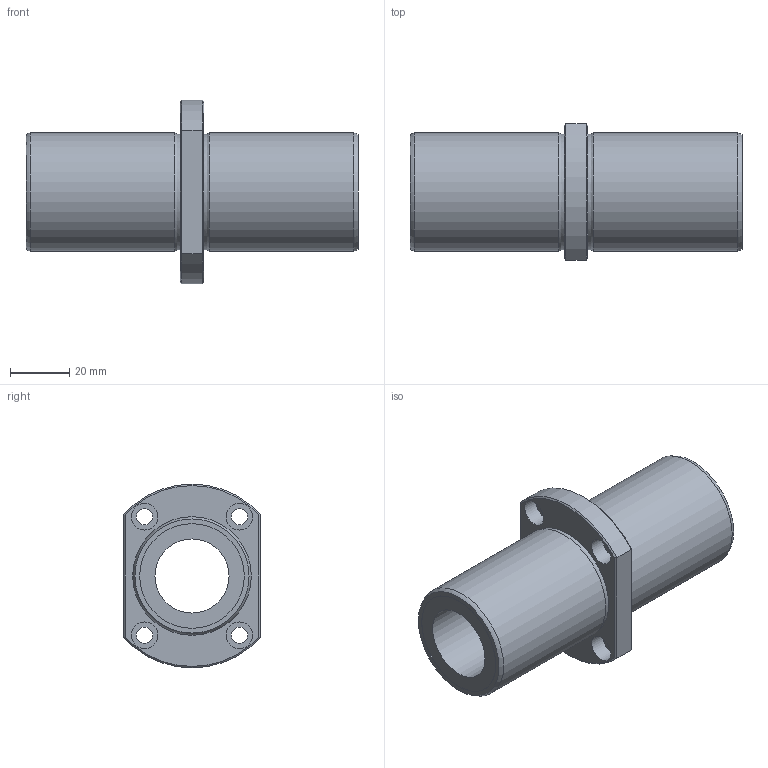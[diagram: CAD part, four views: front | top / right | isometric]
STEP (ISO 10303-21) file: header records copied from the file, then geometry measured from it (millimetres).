
FILE_DESCRIPTION((''),'2;1');
FILE_NAME('D:\製品 (図面)\カタログ用3D\リニアベアリング関連\STEP形式\LFDTC\LFDTC25B.stp','2010-06-04T08:41:36',('Tsuchiya'),(''),'Autodesk Inventor 10','Autodesk Inventor 10','');
FILE_SCHEMA(('AUTOMOTIVE_DESIGN { 1 0 10303 214 1 1 1 1 }'));
Length unit declared in the file: millimetre
Products named in the file (1): LFDTC25B
Bounding box: 112 x 46 x 62 mm (x, y, z)
Volume: 94176.1 mm3; surface area: 27983.2 mm2
Topology: 1 solids, 1 shells, 39 faces, 75 edges, 46 vertices
Faces by surface type: plane 16, cylinder 15, cone 4, torus 2, bspline 2
Full cylindrical faces by diameter (mm): 5.5 x4, 9 x4, 25 x1, 35.3 x2, 40 x2
Entity records: 1073 total; most frequent: CARTESIAN_POINT 292, DIRECTION 164, ORIENTED_EDGE 116, AXIS2_PLACEMENT_3D 76, EDGE_LOOP 74, EDGE_CURVE 58, VERTEX_POINT 46, FACE_OUTER_BOUND 39
